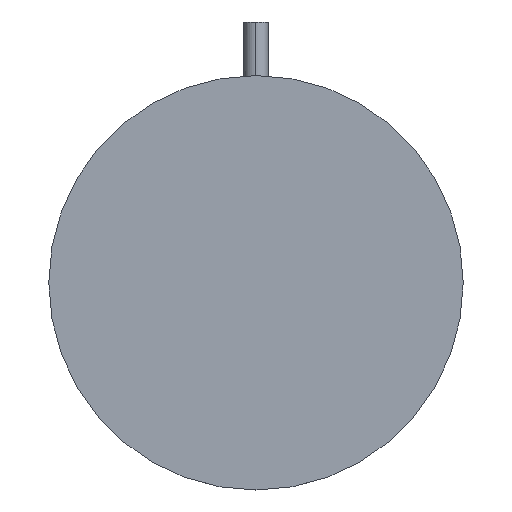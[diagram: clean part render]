
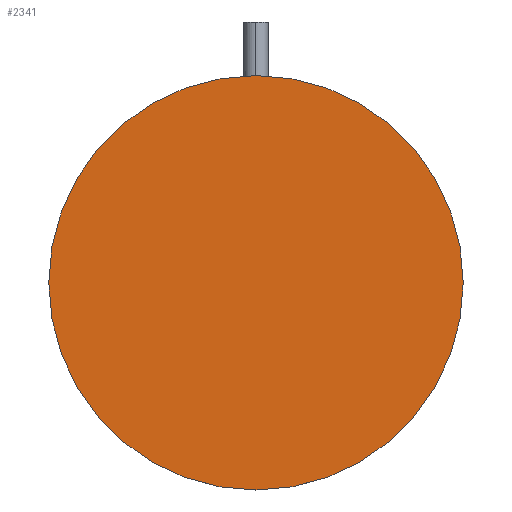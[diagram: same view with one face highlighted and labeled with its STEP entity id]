
A CAD part, top view. The second image highlights one B-rep face of the part: STEP entity #2341.
In plain terms, the highlighted planar face has unit normal (0, 0, 1).
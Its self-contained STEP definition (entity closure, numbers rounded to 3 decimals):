
#29 = EDGE_LOOP ( 'NONE', ( #3215, #2579 ) ) ;
#131 = VERTEX_POINT ( 'NONE', #3720 ) ;
#703 = CARTESIAN_POINT ( 'NONE',  ( 0., 0., 2. ) ) ;
#1246 = CARTESIAN_POINT ( 'NONE',  ( 0., 0., 2. ) ) ;
#1855 = DIRECTION ( 'NONE',  ( 1., 0., 0. ) ) ;
#2034 = VERTEX_POINT ( 'NONE', #2510 ) ;
#2143 = FACE_OUTER_BOUND ( 'NONE', #29, .T. ) ;
#2270 = EDGE_CURVE ( 'NONE', #131, #2034, #2909, .T. ) ;
#2341 = ADVANCED_FACE ( 'NONE', ( #2143 ), #3021, .T. ) ;
#2486 = DIRECTION ( 'NONE',  ( 1., 0., 0. ) ) ;
#2510 = CARTESIAN_POINT ( 'NONE',  ( 85., 0., 2. ) ) ;
#2579 = ORIENTED_EDGE ( 'NONE', *, *, #3584, .T. ) ;
#2844 = AXIS2_PLACEMENT_3D ( 'NONE', #1246, #3709, #2486 ) ;
#2862 = AXIS2_PLACEMENT_3D ( 'NONE', #3953, #3096, #3687 ) ;
#2909 = CIRCLE ( 'NONE', #2844, 85. ) ;
#2995 = AXIS2_PLACEMENT_3D ( 'NONE', #703, #3734, #1855 ) ;
#3021 = PLANE ( 'NONE',  #2862 ) ;
#3096 = DIRECTION ( 'NONE',  ( 0., 0., 1. ) ) ;
#3215 = ORIENTED_EDGE ( 'NONE', *, *, #2270, .T. ) ;
#3367 = CIRCLE ( 'NONE', #2995, 85. ) ;
#3584 = EDGE_CURVE ( 'NONE', #2034, #131, #3367, .T. ) ;
#3687 = DIRECTION ( 'NONE',  ( 1., 0., 0. ) ) ;
#3709 = DIRECTION ( 'NONE',  ( 0., 0., 1. ) ) ;
#3720 = CARTESIAN_POINT ( 'NONE',  ( -85., 0., 2. ) ) ;
#3734 = DIRECTION ( 'NONE',  ( 0., 0., 1. ) ) ;
#3953 = CARTESIAN_POINT ( 'NONE',  ( 0., 27.5, 2. ) ) ;
